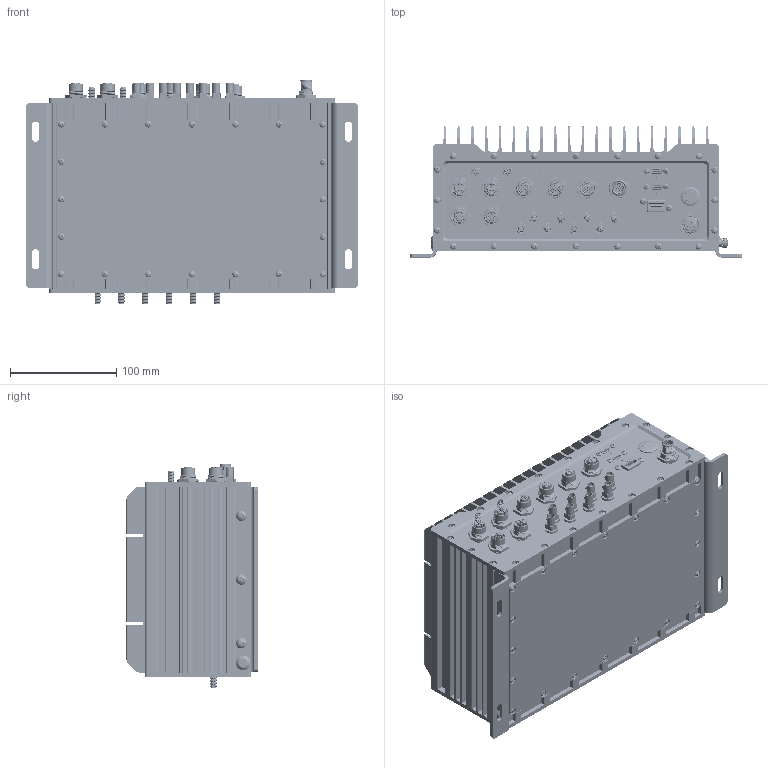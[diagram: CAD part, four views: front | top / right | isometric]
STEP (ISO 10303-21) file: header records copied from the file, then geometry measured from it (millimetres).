
FILE_DESCRIPTION (( 'STEP AP214' ), '1' );
FILE_NAME ('Assembly, ESG635, AGX Orin - Anvil RX - Website.STEP', '2024-10-01T13:16:45', ( '' ), ( '' ), 'SwSTEP 2.0', 'SolidWorks 2023', '' );
FILE_SCHEMA (( 'AUTOMOTIVE_DESIGN' ));
Length unit declared in the file: millimetre
Products named in the file (1): Assembly, ESG635, AGX Orin - Anvil RX - Website
Bounding box: 312.5 x 123.35 x 210.3 mm (x, y, z)
Surface area: 723390.3 mm2 (no closed solid volume)
Topology: 0 solids, 345 shells, 24807 faces, 67582 edges, 43892 vertices
Faces by surface type: cylinder 9844, plane 8337, bspline 3393, cone 2653, torus 430, sphere 150
Entity records: 1249442 total; most frequent: CARTESIAN_POINT 678763, ORIENTED_EDGE 134424, DIRECTION 98432, EDGE_CURVE 67258, VERTEX_POINT 43892, AXIS2_PLACEMENT_3D 34408, VECTOR 29616, LINE 29616
